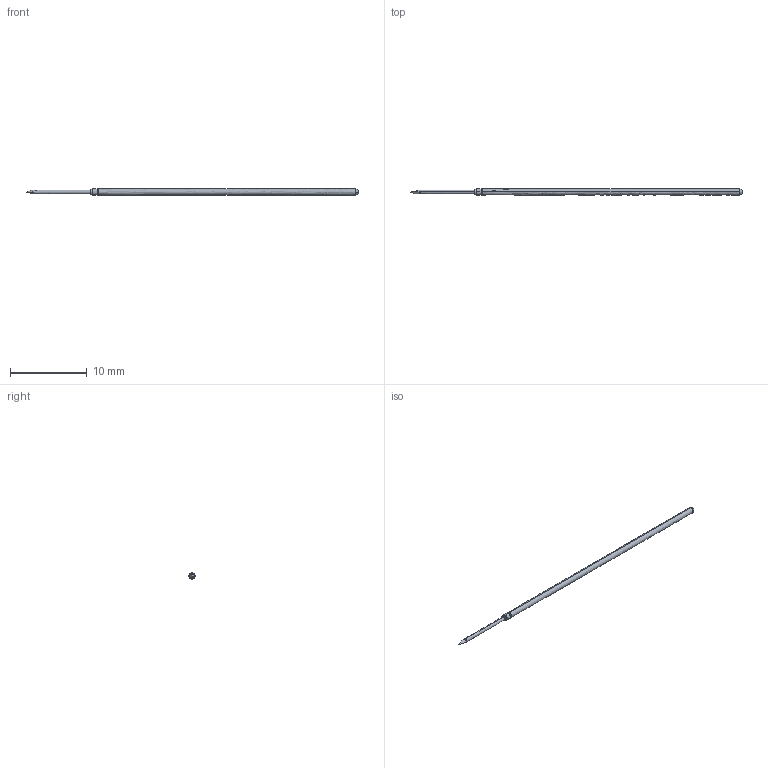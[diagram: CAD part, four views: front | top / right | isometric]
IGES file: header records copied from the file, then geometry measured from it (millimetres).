
Start section: SolidWorks IGES file using analytic representation for surfaces
Global section: file name: L:\probe solid model mockups\Solidworks models\POGO-72T1.IGS; native system: SolidWorks 2006 by SolidWorks Corporation; preprocessor: SolidWorks 2006 by SolidWorks Corporation; author: Ksnyder; date: 071211.135928; units: inch
Bounding box: 43.18 x 0.79 x 0.79 mm (x, y, z)
Surface area: 181.5 mm2
Topology: 1 solids, 1 shells, 21 faces, 46 edges, 26 vertices
Faces by surface type: revolution 16, plane 5
